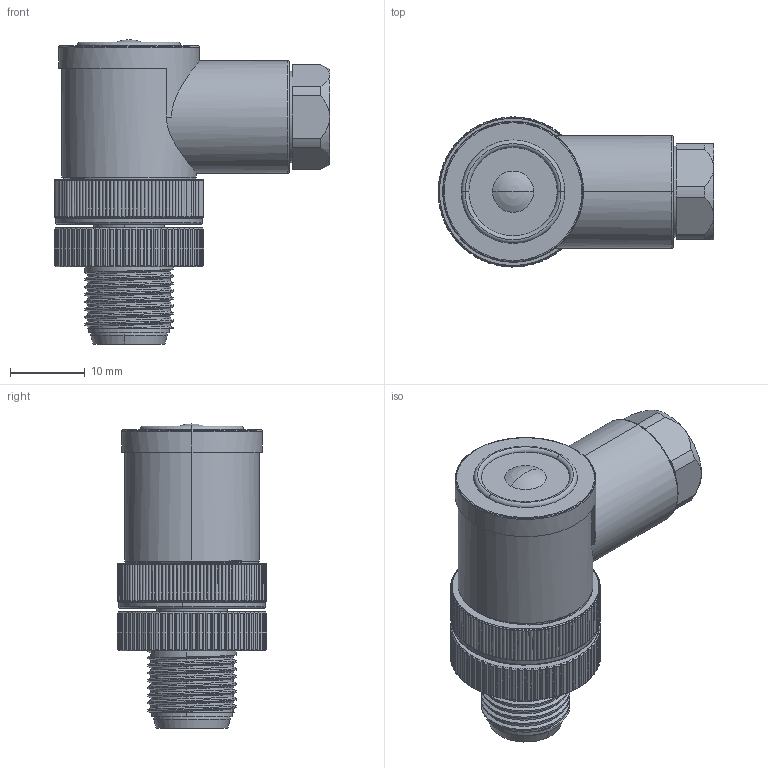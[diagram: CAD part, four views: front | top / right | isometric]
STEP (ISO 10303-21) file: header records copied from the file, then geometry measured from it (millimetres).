
FILE_DESCRIPTION((''),'2;1');
FILE_NAME('XC-M12-RWK-PG7','2025-06-21T16:19:09',('lyj'),(''),'CREO PARAMETRIC BY PTC INC, 2019010','CREO PARAMETRIC BY PTC INC, 2019010','');
FILE_SCHEMA(('CONFIG_CONTROL_DESIGN'));
Length unit declared in the file: millimetre
Products named in the file (1): XC-M12-RWK-PG7
Bounding box: 36.8 x 20 x 40.6 mm (x, y, z)
Volume: 8114.7 mm3; surface area: 11906.9 mm2
Topology: 1 solids, 16 shells, 1532 faces, 4118 edges, 2644 vertices
Faces by surface type: cylinder 654, cone 401, plane 358, bspline 59, extrusion 28, torus 16, sphere 16
Entity records: 87015 total; most frequent: CARTESIAN_POINT 50471, ORIENTED_EDGE 8204, DIRECTION 6931, EDGE_CURVE 4102, AXIS2_PLACEMENT_3D 2778, VERTEX_POINT 2644, EDGE_LOOP 1620, FACE_OUTER_BOUND 1532
